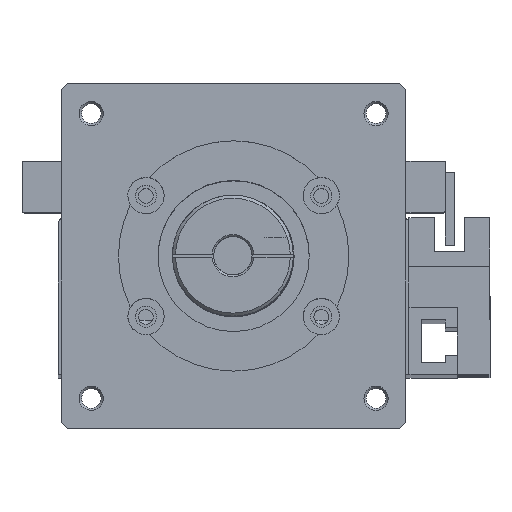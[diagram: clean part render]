
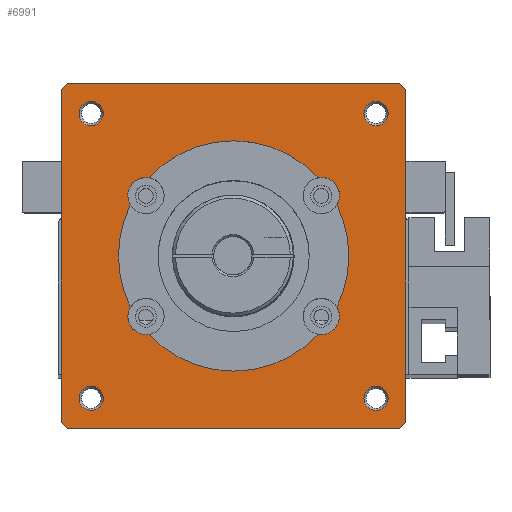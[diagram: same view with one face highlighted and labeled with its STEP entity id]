
A CAD part, top view. The second image highlights one B-rep face of the part: STEP entity #6991.
In plain terms, the highlighted planar face has unit normal (0, 0, 1).
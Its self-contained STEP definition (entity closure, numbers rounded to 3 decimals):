
#6568=CARTESIAN_POINT('',(45.571,36.954,0.0));
#6569=VERTEX_POINT('',#6568);
#6585=CARTESIAN_POINT('',(45.571,20.046,0.0));
#6586=VERTEX_POINT('',#6585);
#6593=CARTESIAN_POINT('',(28.5,28.5,0.0));
#6594=DIRECTION('',(0.0,0.0,-1.0));
#6595=DIRECTION('',(-1.0,0.0,0.0));
#6596=AXIS2_PLACEMENT_3D('',#6593,#6594,#6595);
#6597=CIRCLE('',#6596,19.05);
#6598=EDGE_CURVE('',#6569,#6586,#6597,.T.);
#6608=CARTESIAN_POINT('',(14.531,15.547,0.0));
#6609=VERTEX_POINT('',#6608);
#6618=CARTESIAN_POINT('',(42.469,15.547,0.0));
#6619=VERTEX_POINT('',#6618);
#6620=CARTESIAN_POINT('',(28.5,28.5,0.0));
#6621=DIRECTION('',(0.0,0.0,-1.0));
#6622=DIRECTION('',(-1.0,0.0,0.0));
#6623=AXIS2_PLACEMENT_3D('',#6620,#6621,#6622);
#6624=CIRCLE('',#6623,19.05);
#6625=EDGE_CURVE('',#6619,#6609,#6624,.T.);
#6652=CARTESIAN_POINT('',(14.531,41.453,0.0));
#6653=VERTEX_POINT('',#6652);
#6669=CARTESIAN_POINT('',(42.469,41.453,0.0));
#6670=VERTEX_POINT('',#6669);
#6677=CARTESIAN_POINT('',(28.5,28.5,0.0));
#6678=DIRECTION('',(0.0,0.0,-1.0));
#6679=DIRECTION('',(-1.0,0.0,0.0));
#6680=AXIS2_PLACEMENT_3D('',#6677,#6678,#6679);
#6681=CIRCLE('',#6680,19.05);
#6682=EDGE_CURVE('',#6653,#6670,#6681,.T.);
#6692=CARTESIAN_POINT('',(11.429,36.954,0.0));
#6693=VERTEX_POINT('',#6692);
#6702=CARTESIAN_POINT('',(11.429,20.046,0.0));
#6703=VERTEX_POINT('',#6702);
#6704=CARTESIAN_POINT('',(28.5,28.5,0.0));
#6705=DIRECTION('',(0.0,0.0,-1.0));
#6706=DIRECTION('',(-1.0,0.0,0.0));
#6707=AXIS2_PLACEMENT_3D('',#6704,#6705,#6706);
#6708=CIRCLE('',#6707,19.05);
#6709=EDGE_CURVE('',#6703,#6693,#6708,.T.);
#6754=CARTESIAN_POINT('',(14.,38.5,0.0));
#6755=DIRECTION('',(0.0,0.0,-1.0));
#6756=DIRECTION('',(1.0,0.0,0.0));
#6757=AXIS2_PLACEMENT_3D('',#6754,#6755,#6756);
#6758=CIRCLE('',#6757,3.);
#6759=EDGE_CURVE('',#6693,#6653,#6758,.T.);
#6789=CARTESIAN_POINT('',(43.,38.5,0.0));
#6790=DIRECTION('',(0.0,0.0,-1.0));
#6791=DIRECTION('',(1.0,0.0,0.0));
#6792=AXIS2_PLACEMENT_3D('',#6789,#6790,#6791);
#6793=CIRCLE('',#6792,3.);
#6794=EDGE_CURVE('',#6670,#6569,#6793,.T.);
#6814=CARTESIAN_POINT('',(56.,57.,0.0));
#6815=VERTEX_POINT('',#6814);
#6822=CARTESIAN_POINT('',(57.,56.,0.0));
#6823=VERTEX_POINT('',#6822);
#6824=CARTESIAN_POINT('',(56.,57.,0.0));
#6825=DIRECTION('',(0.707,-0.707,0.0));
#6826=VECTOR('',#6825,1.414);
#6827=LINE('',#6824,#6826);
#6828=EDGE_CURVE('',#6815,#6823,#6827,.T.);
#6845=CARTESIAN_POINT('',(57.0,1.0,0.0));
#6846=VERTEX_POINT('',#6845);
#6847=CARTESIAN_POINT('',(57.0,1.0,0.0));
#6848=DIRECTION('',(0.0,1.0,0.0));
#6849=VECTOR('',#6848,55.);
#6850=LINE('',#6847,#6849);
#6851=EDGE_CURVE('',#6846,#6823,#6850,.T.);
#6870=CARTESIAN_POINT('',(28.5,28.5,0.0));
#6871=DIRECTION('',(0.0,0.0,1.0));
#6872=DIRECTION('',(1.0,0.0,0.0));
#6873=AXIS2_PLACEMENT_3D('',#6870,#6871,#6872);
#6874=PLANE('',#6873);
#6875=ORIENTED_EDGE('',*,*,#6828,.F.);
#6876=CARTESIAN_POINT('',(1.,57.0,0.0));
#6877=VERTEX_POINT('',#6876);
#6878=CARTESIAN_POINT('',(56.,57.,0.0));
#6879=DIRECTION('',(-1.0,0.0,0.0));
#6880=VECTOR('',#6879,55.);
#6881=LINE('',#6878,#6880);
#6882=EDGE_CURVE('',#6815,#6877,#6881,.T.);
#6883=ORIENTED_EDGE('',*,*,#6882,.T.);
#6884=CARTESIAN_POINT('',(0.0,56.,0.0));
#6885=VERTEX_POINT('',#6884);
#6886=CARTESIAN_POINT('',(0.0,56.,0.0));
#6887=DIRECTION('',(0.707,0.707,0.0));
#6888=VECTOR('',#6887,1.414);
#6889=LINE('',#6886,#6888);
#6890=EDGE_CURVE('',#6885,#6877,#6889,.T.);
#6891=ORIENTED_EDGE('',*,*,#6890,.F.);
#6892=CARTESIAN_POINT('',(0.0,1.,0.0));
#6893=VERTEX_POINT('',#6892);
#6894=CARTESIAN_POINT('',(0.0,56.,0.0));
#6895=DIRECTION('',(0.0,-1.0,0.0));
#6896=VECTOR('',#6895,55.);
#6897=LINE('',#6894,#6896);
#6898=EDGE_CURVE('',#6885,#6893,#6897,.T.);
#6899=ORIENTED_EDGE('',*,*,#6898,.T.);
#6900=CARTESIAN_POINT('',(1.0,0.0,0.0));
#6901=VERTEX_POINT('',#6900);
#6902=CARTESIAN_POINT('',(1.0,0.0,0.0));
#6903=DIRECTION('',(-0.707,0.707,0.0));
#6904=VECTOR('',#6903,1.414);
#6905=LINE('',#6902,#6904);
#6906=EDGE_CURVE('',#6901,#6893,#6905,.T.);
#6907=ORIENTED_EDGE('',*,*,#6906,.F.);
#6908=CARTESIAN_POINT('',(56.,0.0,0.0));
#6909=VERTEX_POINT('',#6908);
#6910=CARTESIAN_POINT('',(1.0,0.0,0.0));
#6911=DIRECTION('',(1.0,0.0,0.0));
#6912=VECTOR('',#6911,55.);
#6913=LINE('',#6910,#6912);
#6914=EDGE_CURVE('',#6901,#6909,#6913,.T.);
#6915=ORIENTED_EDGE('',*,*,#6914,.T.);
#6916=CARTESIAN_POINT('',(57.0,1.0,0.0));
#6917=DIRECTION('',(-0.707,-0.707,0.0));
#6918=VECTOR('',#6917,1.414);
#6919=LINE('',#6916,#6918);
#6920=EDGE_CURVE('',#6846,#6909,#6919,.T.);
#6921=ORIENTED_EDGE('',*,*,#6920,.F.);
#6922=ORIENTED_EDGE('',*,*,#6851,.T.);
#6923=EDGE_LOOP('',(#6875,#6883,#6891,#6899,#6907,#6915,#6921,#6922));
#6924=FACE_OUTER_BOUND('',#6923,.T.);
#6925=ORIENTED_EDGE('',*,*,#6709,.T.);
#6926=ORIENTED_EDGE('',*,*,#6759,.T.);
#6927=ORIENTED_EDGE('',*,*,#6682,.T.);
#6928=ORIENTED_EDGE('',*,*,#6794,.T.);
#6929=ORIENTED_EDGE('',*,*,#6598,.T.);
#6930=CARTESIAN_POINT('',(43.,18.5,0.0));
#6931=DIRECTION('',(0.0,0.0,-1.0));
#6932=DIRECTION('',(1.0,0.0,0.0));
#6933=AXIS2_PLACEMENT_3D('',#6930,#6931,#6932);
#6934=CIRCLE('',#6933,3.);
#6935=EDGE_CURVE('',#6586,#6619,#6934,.T.);
#6936=ORIENTED_EDGE('',*,*,#6935,.T.);
#6937=ORIENTED_EDGE('',*,*,#6625,.T.);
#6938=CARTESIAN_POINT('',(14.,18.5,0.0));
#6939=DIRECTION('',(0.0,0.0,-1.0));
#6940=DIRECTION('',(1.0,0.0,0.0));
#6941=AXIS2_PLACEMENT_3D('',#6938,#6939,#6940);
#6942=CIRCLE('',#6941,3.);
#6943=EDGE_CURVE('',#6609,#6703,#6942,.T.);
#6944=ORIENTED_EDGE('',*,*,#6943,.T.);
#6945=EDGE_LOOP('',(#6925,#6926,#6927,#6928,#6929,#6936,#6937,#6944));
#6946=FACE_BOUND('',#6945,.T.);
#6947=CARTESIAN_POINT('',(54.05,4.95,0.0));
#6948=VERTEX_POINT('',#6947);
#6949=CARTESIAN_POINT('',(52.05,4.95,0.0));
#6950=DIRECTION('',(0.0,0.0,-1.0));
#6951=DIRECTION('',(1.0,0.0,0.0));
#6952=AXIS2_PLACEMENT_3D('',#6949,#6950,#6951);
#6953=CIRCLE('',#6952,2.0);
#6954=EDGE_CURVE('',#6948,#6948,#6953,.T.);
#6955=ORIENTED_EDGE('',*,*,#6954,.T.);
#6956=EDGE_LOOP('',(#6955));
#6957=FACE_BOUND('',#6956,.T.);
#6958=CARTESIAN_POINT('',(6.95,52.05,0.0));
#6959=VERTEX_POINT('',#6958);
#6960=CARTESIAN_POINT('',(4.95,52.05,0.0));
#6961=DIRECTION('',(0.0,0.0,-1.0));
#6962=DIRECTION('',(1.0,0.0,0.0));
#6963=AXIS2_PLACEMENT_3D('',#6960,#6961,#6962);
#6964=CIRCLE('',#6963,2.0);
#6965=EDGE_CURVE('',#6959,#6959,#6964,.T.);
#6966=ORIENTED_EDGE('',*,*,#6965,.T.);
#6967=EDGE_LOOP('',(#6966));
#6968=FACE_BOUND('',#6967,.T.);
#6969=CARTESIAN_POINT('',(54.05,52.05,0.0));
#6970=VERTEX_POINT('',#6969);
#6971=CARTESIAN_POINT('',(52.05,52.05,0.0));
#6972=DIRECTION('',(0.0,0.0,-1.0));
#6973=DIRECTION('',(1.0,0.0,0.0));
#6974=AXIS2_PLACEMENT_3D('',#6971,#6972,#6973);
#6975=CIRCLE('',#6974,2.0);
#6976=EDGE_CURVE('',#6970,#6970,#6975,.T.);
#6977=ORIENTED_EDGE('',*,*,#6976,.T.);
#6978=EDGE_LOOP('',(#6977));
#6979=FACE_BOUND('',#6978,.T.);
#6980=CARTESIAN_POINT('',(6.95,4.95,0.0));
#6981=VERTEX_POINT('',#6980);
#6982=CARTESIAN_POINT('',(4.95,4.95,0.0));
#6983=DIRECTION('',(0.0,0.0,-1.0));
#6984=DIRECTION('',(1.0,0.0,0.0));
#6985=AXIS2_PLACEMENT_3D('',#6982,#6983,#6984);
#6986=CIRCLE('',#6985,2.0);
#6987=EDGE_CURVE('',#6981,#6981,#6986,.T.);
#6988=ORIENTED_EDGE('',*,*,#6987,.T.);
#6989=EDGE_LOOP('',(#6988));
#6990=FACE_BOUND('',#6989,.T.);
#6991=ADVANCED_FACE('',(#6924,#6946,#6957,#6968,#6979,#6990),#6874,.T.);
